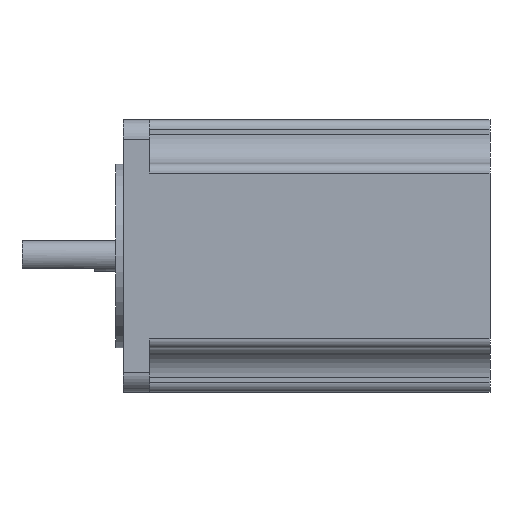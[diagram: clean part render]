
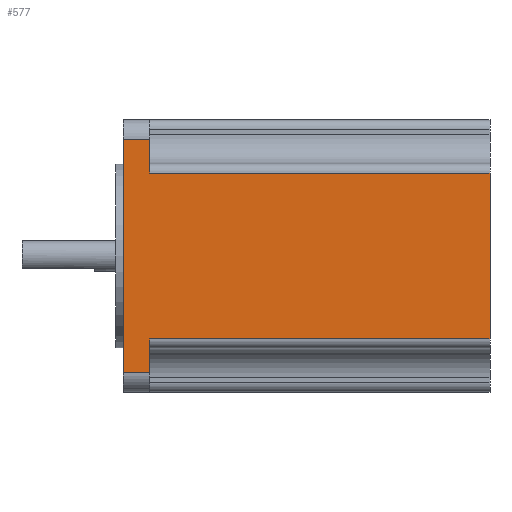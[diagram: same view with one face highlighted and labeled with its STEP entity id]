
A CAD part, left-side view. The second image highlights one B-rep face of the part: STEP entity #577.
In plain terms, the highlighted planar face has unit normal (-1, 0, 0).
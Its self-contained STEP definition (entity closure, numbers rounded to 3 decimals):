
#406 = EDGE_CURVE ( 'NONE', #624, #582, #1046, .T. ) ;
#423 = ORIENTED_EDGE ( 'NONE', *, *, #515, .F. ) ;
#424 = EDGE_CURVE ( 'NONE', #624, #626, #1119, .T. ) ;
#425 = ORIENTED_EDGE ( 'NONE', *, *, #426, .T. ) ;
#426 = EDGE_CURVE ( 'NONE', #626, #620, #1100, .T. ) ;
#429 = VERTEX_POINT ( 'NONE', #1095 ) ;
#482 = VERTEX_POINT ( 'NONE', #1202 ) ;
#515 = EDGE_CURVE ( 'NONE', #516, #621, #1392, .T. ) ;
#516 = VERTEX_POINT ( 'NONE', #1388 ) ;
#517 = ORIENTED_EDGE ( 'NONE', *, *, #518, .T. ) ;
#518 = EDGE_CURVE ( 'NONE', #516, #429, #1387, .T. ) ;
#577 = ADVANCED_FACE ( 'NONE', ( #1264 ), #1263, .F. ) ;
#579 = ORIENTED_EDGE ( 'NONE', *, *, #580, .T. ) ;
#580 = EDGE_CURVE ( 'NONE', #620, #621, #1380, .T. ) ;
#581 = EDGE_LOOP ( 'NONE', ( #585, #586, #583, #625, #425, #579, #423, #517 ) ) ;
#582 = VERTEX_POINT ( 'NONE', #1376 ) ;
#583 = ORIENTED_EDGE ( 'NONE', *, *, #406, .F. ) ;
#585 = ORIENTED_EDGE ( 'NONE', *, *, #588, .F. ) ;
#586 = ORIENTED_EDGE ( 'NONE', *, *, #587, .T. ) ;
#587 = EDGE_CURVE ( 'NONE', #482, #582, #1375, .T. ) ;
#588 = EDGE_CURVE ( 'NONE', #482, #429, #1335, .T. ) ;
#620 = VERTEX_POINT ( 'NONE', #1433 ) ;
#621 = VERTEX_POINT ( 'NONE', #1432 ) ;
#624 = VERTEX_POINT ( 'NONE', #1431 ) ;
#625 = ORIENTED_EDGE ( 'NONE', *, *, #424, .T. ) ;
#626 = VERTEX_POINT ( 'NONE', #1430 ) ;
#1043 = DIRECTION ( 'NONE',  ( 0., 0., -1. ) ) ;
#1044 = VECTOR ( 'NONE', #1043, 1000. ) ;
#1045 = CARTESIAN_POINT ( 'NONE',  ( 0., 70.5, -56.4 ) ) ;
#1046 = LINE ( 'NONE', #1045, #1044 ) ;
#1095 = CARTESIAN_POINT ( 'NONE',  ( 0., 76., -4. ) ) ;
#1097 = DIRECTION ( 'NONE',  ( 0., 0., 1. ) ) ;
#1098 = VECTOR ( 'NONE', #1097, 1000. ) ;
#1099 = CARTESIAN_POINT ( 'NONE',  ( 0., 0., 0. ) ) ;
#1100 = LINE ( 'NONE', #1099, #1098 ) ;
#1116 = DIRECTION ( 'NONE',  ( 0., -1., 0. ) ) ;
#1117 = VECTOR ( 'NONE', #1116, 1000. ) ;
#1118 = CARTESIAN_POINT ( 'NONE',  ( 0., 76., -45.4 ) ) ;
#1119 = LINE ( 'NONE', #1118, #1117 ) ;
#1202 = CARTESIAN_POINT ( 'NONE',  ( 0., 76., -52.4 ) ) ;
#1258 = DIRECTION ( 'NONE',  ( 0., 0., -1. ) ) ;
#1259 = DIRECTION ( 'NONE',  ( 1., 0., 0. ) ) ;
#1260 = CARTESIAN_POINT ( 'NONE',  ( 0., 76., 0. ) ) ;
#1261 = AXIS2_PLACEMENT_3D ( 'NONE', #1260, #1259, #1258 ) ;
#1263 = PLANE ( 'NONE',  #1261 ) ;
#1264 = FACE_OUTER_BOUND ( 'NONE', #581, .T. ) ;
#1332 = DIRECTION ( 'NONE',  ( 0., 0., 1. ) ) ;
#1333 = VECTOR ( 'NONE', #1332, 1000. ) ;
#1334 = CARTESIAN_POINT ( 'NONE',  ( 0., 76., 0. ) ) ;
#1335 = LINE ( 'NONE', #1334, #1333 ) ;
#1372 = DIRECTION ( 'NONE',  ( 0., -1., 0. ) ) ;
#1373 = VECTOR ( 'NONE', #1372, 1000. ) ;
#1374 = CARTESIAN_POINT ( 'NONE',  ( 0., 76., -52.4 ) ) ;
#1375 = LINE ( 'NONE', #1374, #1373 ) ;
#1376 = CARTESIAN_POINT ( 'NONE',  ( 0., 70.5, -52.4 ) ) ;
#1377 = DIRECTION ( 'NONE',  ( 0., 1., 0. ) ) ;
#1378 = VECTOR ( 'NONE', #1377, 1000. ) ;
#1379 = CARTESIAN_POINT ( 'NONE',  ( 0., 76., -11. ) ) ;
#1380 = LINE ( 'NONE', #1379, #1378 ) ;
#1384 = DIRECTION ( 'NONE',  ( 0., 1., 0. ) ) ;
#1385 = VECTOR ( 'NONE', #1384, 1000. ) ;
#1386 = CARTESIAN_POINT ( 'NONE',  ( 0., 76., -4. ) ) ;
#1387 = LINE ( 'NONE', #1386, #1385 ) ;
#1388 = CARTESIAN_POINT ( 'NONE',  ( 0., 70.5, -4. ) ) ;
#1389 = DIRECTION ( 'NONE',  ( 0., 0., -1. ) ) ;
#1390 = VECTOR ( 'NONE', #1389, 1000. ) ;
#1391 = CARTESIAN_POINT ( 'NONE',  ( 0., 70.5, 0. ) ) ;
#1392 = LINE ( 'NONE', #1391, #1390 ) ;
#1430 = CARTESIAN_POINT ( 'NONE',  ( 0., 0., -45.4 ) ) ;
#1431 = CARTESIAN_POINT ( 'NONE',  ( 0., 70.5, -45.4 ) ) ;
#1432 = CARTESIAN_POINT ( 'NONE',  ( 0., 70.5, -11. ) ) ;
#1433 = CARTESIAN_POINT ( 'NONE',  ( 0., 0., -11. ) ) ;
